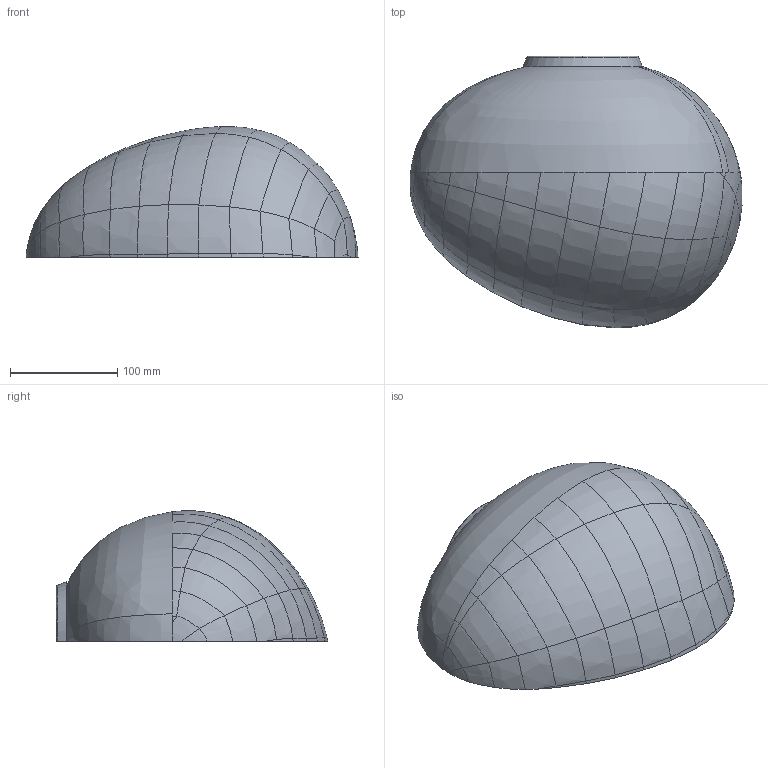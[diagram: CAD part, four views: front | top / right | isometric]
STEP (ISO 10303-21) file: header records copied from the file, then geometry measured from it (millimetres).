
FILE_DESCRIPTION (( 'STEP AP203' ), '1' );
FILE_NAME ('168_MEDIA-SEMI-1_W_ME_3D.STEP', '2025-04-15T14:10:49', ( '' ), ( '' ), 'SwSTEP 2.0', 'SolidWorks 2024', '' );
FILE_SCHEMA (( 'CONFIG_CONTROL_DESIGN' ));
Length unit declared in the file: millimetre
Products named in the file (1): 168_MEDIA-SEMI-1_W_ME_3D
Bounding box: 310.14 x 253.81 x 122.06 mm (x, y, z)
Volume: 290679.4 mm3; surface area: 227932.6 mm2
Topology: 2 solids, 2 shells, 400 faces, 999 edges, 590 vertices
Faces by surface type: bspline 150, cylinder 89, plane 61, torus 55, cone 25, sphere 20
Entity records: 128589 total; most frequent: CARTESIAN_POINT 120422, ORIENTED_EDGE 1966, DIRECTION 1293, EDGE_CURVE 983, VERTEX_POINT 590, AXIS2_PLACEMENT_3D 534, B_SPLINE_CURVE_WITH_KNOTS 405, EDGE_LOOP 403
